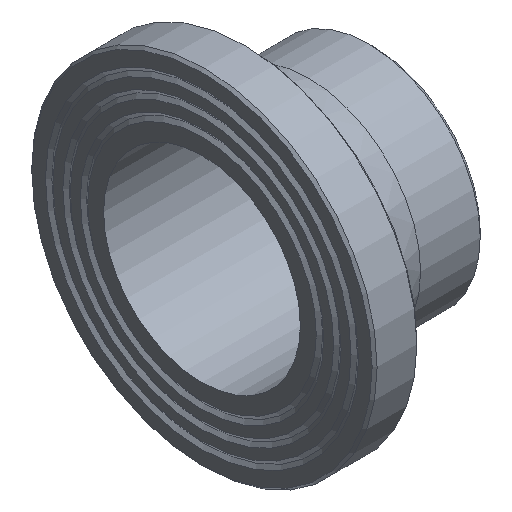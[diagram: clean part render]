
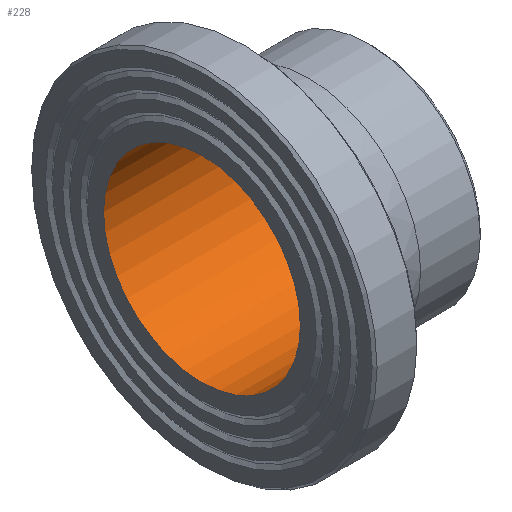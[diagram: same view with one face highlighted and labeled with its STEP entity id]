
A CAD part, isometric view. The second image highlights one B-rep face of the part: STEP entity #228.
In plain terms, the highlighted cylindrical face has radius 39.6 mm (diameter 79.2 mm), a full revolution.
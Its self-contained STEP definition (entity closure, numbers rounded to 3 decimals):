
#33=CYLINDRICAL_SURFACE('',#274,39.6);
#50=ORIENTED_EDGE('',*,*,#79,.F.);
#51=ORIENTED_EDGE('',*,*,#76,.T.);
#76=EDGE_CURVE('',#96,#96,#116,.T.);
#79=EDGE_CURVE('',#99,#99,#119,.T.);
#96=VERTEX_POINT('',#383);
#99=VERTEX_POINT('',#390);
#116=CIRCLE('',#257,39.6);
#119=CIRCLE('',#261,39.6);
#150=EDGE_LOOP('',(#50));
#151=EDGE_LOOP('',(#51));
#190=FACE_BOUND('',#150,.T.);
#191=FACE_BOUND('',#151,.T.);
#228=ADVANCED_FACE('',(#190,#191),#33,.F.);
#257=AXIS2_PLACEMENT_3D('',#382,#303,#304);
#261=AXIS2_PLACEMENT_3D('',#389,#311,#312);
#274=AXIS2_PLACEMENT_3D('',#410,#337,#338);
#303=DIRECTION('',(-1.,0.,0.));
#304=DIRECTION('',(0.,0.,1.));
#311=DIRECTION('',(-1.,0.,0.));
#312=DIRECTION('',(0.,0.,1.));
#337=DIRECTION('',(-1.,0.,0.));
#338=DIRECTION('',(0.,0.,1.));
#382=CARTESIAN_POINT('',(0.,0.,0.));
#383=CARTESIAN_POINT('',(0.,0.,39.6));
#389=CARTESIAN_POINT('',(69.,0.,0.));
#390=CARTESIAN_POINT('',(69.,0.,39.6));
#410=CARTESIAN_POINT('',(60.,0.,0.));
